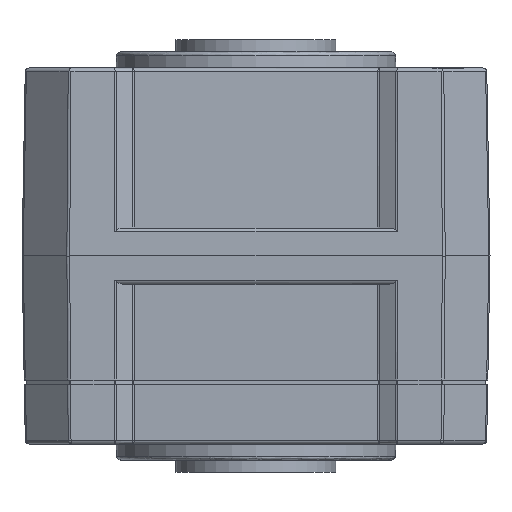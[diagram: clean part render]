
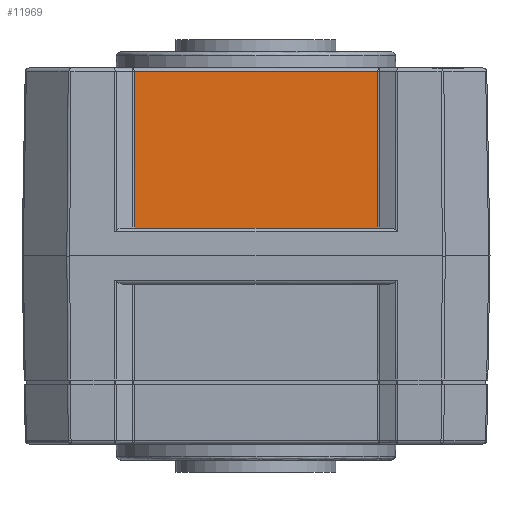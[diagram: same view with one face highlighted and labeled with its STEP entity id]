
A CAD part, front view. The second image highlights one B-rep face of the part: STEP entity #11969.
In plain terms, the highlighted planar face has unit normal (0, -1, 0.018).
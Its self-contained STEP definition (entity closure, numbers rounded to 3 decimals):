
#44 = CARTESIAN_POINT ( 'NONE',  ( 80.449, -125.038, 46.081 ) ) ;
#45 = CARTESIAN_POINT ( 'NONE',  ( 16.338, -125.719, 7.064 ) ) ;
#48 = CARTESIAN_POINT ( 'NONE',  ( 81.338, -125.038, 46.081 ) ) ;
#49 = DIRECTION ( 'NONE',  ( 1., 0., 0. ) ) ;
#50 = CARTESIAN_POINT ( 'NONE',  ( 19.551, -125.038, 46.081 ) ) ;
#51 = DIRECTION ( 'NONE',  ( 0.005, -0.017, -1. ) ) ;
#52 = DIRECTION ( 'NONE',  ( -1., 0., 0. ) ) ;
#54 = DIRECTION ( 'NONE',  ( 0.005, 0.017, 1. ) ) ;
#5444 = VERTEX_POINT ( 'NONE', #18524 ) ;
#5445 = VERTEX_POINT ( 'NONE', #18525 ) ;
#5458 = VERTEX_POINT ( 'NONE', #18538 ) ;
#5460 = VERTEX_POINT ( 'NONE', #18540 ) ;
#11969 = ADVANCED_FACE ( 'NONE', ( #21149 ), #22902, .T. ) ;
#13065 = EDGE_CURVE ( 'NONE', #5445, #5444, #21685, .T. ) ;
#13066 = EDGE_CURVE ( 'NONE', #5445, #5458, #21686, .T. ) ;
#13067 = EDGE_CURVE ( 'NONE', #5460, #5458, #21683, .T. ) ;
#13068 = EDGE_CURVE ( 'NONE', #5460, #5444, #21688, .T. ) ;
#13473 = ORIENTED_EDGE ( 'NONE', *, *, #13065, .F. ) ;
#13474 = ORIENTED_EDGE ( 'NONE', *, *, #13066, .T. ) ;
#13475 = ORIENTED_EDGE ( 'NONE', *, *, #13067, .F. ) ;
#13476 = ORIENTED_EDGE ( 'NONE', *, *, #13068, .T. ) ;
#13731 = EDGE_LOOP ( 'NONE', ( #13473, #13474, #13475, #13476 ) ) ;
#18133 = AXIS2_PLACEMENT_3D ( 'NONE', #22897, #22905, #22906 ) ;
#18524 = CARTESIAN_POINT ( 'NONE',  ( 80.449, -125.038, 46.081 ) ) ;
#18525 = CARTESIAN_POINT ( 'NONE',  ( 19.551, -125.038, 46.081 ) ) ;
#18538 = CARTESIAN_POINT ( 'NONE',  ( 19.727, -125.719, 7.064 ) ) ;
#18540 = CARTESIAN_POINT ( 'NONE',  ( 80.272, -125.719, 7.064 ) ) ;
#21149 = FACE_OUTER_BOUND ( 'NONE', #13731, .T. ) ;
#21683 = LINE ( 'NONE', #45, #21690 ) ;
#21685 = LINE ( 'NONE', #48, #21687 ) ;
#21686 = LINE ( 'NONE', #50, #21689 ) ;
#21687 = VECTOR ( 'NONE', #49, 1000. ) ;
#21688 = LINE ( 'NONE', #44, #21692 ) ;
#21689 = VECTOR ( 'NONE', #51, 1000. ) ;
#21690 = VECTOR ( 'NONE', #52, 1000. ) ;
#21692 = VECTOR ( 'NONE', #54, 1000. ) ;
#22897 = CARTESIAN_POINT ( 'NONE',  ( 80.814, -125.719, 7.064 ) ) ;
#22902 = PLANE ( 'NONE',  #18133 ) ;
#22905 = DIRECTION ( 'NONE',  ( 0., -1., 0.017 ) ) ;
#22906 = DIRECTION ( 'NONE',  ( 0., -0.017, -1. ) ) ;
